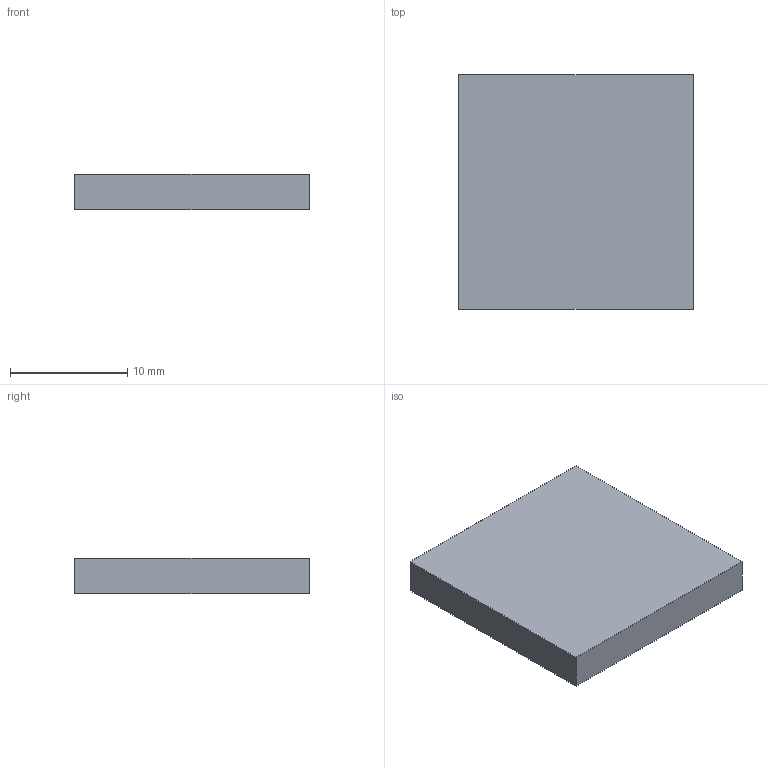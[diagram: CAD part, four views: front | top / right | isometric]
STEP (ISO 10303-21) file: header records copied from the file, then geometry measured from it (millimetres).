
FILE_DESCRIPTION(('STEP AP214'),'1');
FILE_NAME('Temperature Issues.stp','2023-02-28T00:39:35',(' '),(' '),'Spatial InterOp 3D',' ',' ');
FILE_SCHEMA(('AUTOMOTIVE_DESIGN { 1 0 10303 214 1 1 1 1 }'));
Length unit declared in the file: metre
Products named in the file (1): Solid
Bounding box: 20 x 20 x 3 mm (x, y, z)
Volume: 1200 mm3; surface area: 1431.1 mm2
Topology: 2 solids, 2 shells, 13 faces, 24 edges, 16 vertices
Faces by surface type: plane 9, cylinder 4
Entity records: 363 total; most frequent: DIRECTION 62, CARTESIAN_POINT 55, ORIENTED_EDGE 48, EDGE_CURVE 24, AXIS2_PLACEMENT_3D 23, VERTEX_POINT 16, LINE 16, VECTOR 16
